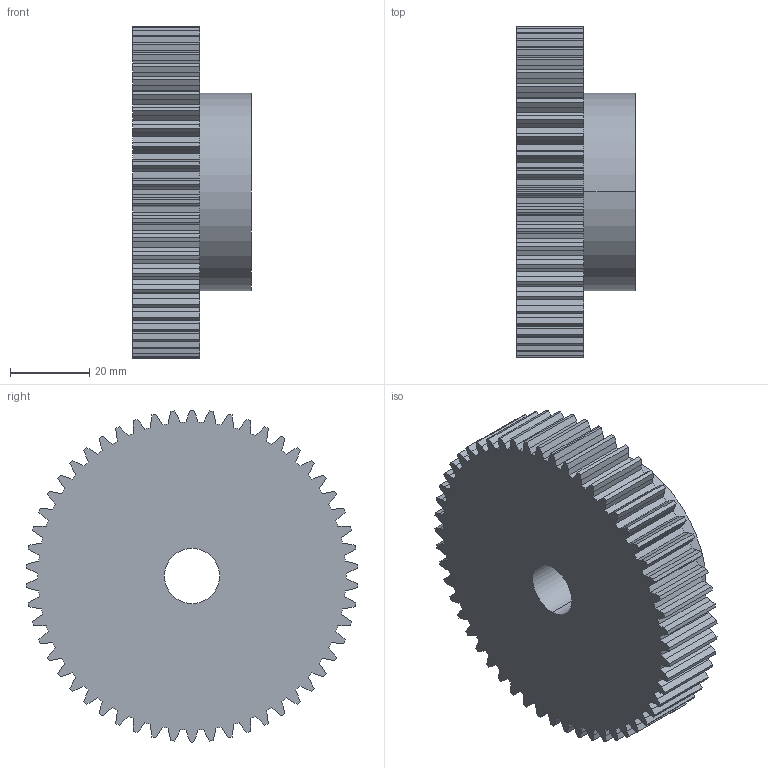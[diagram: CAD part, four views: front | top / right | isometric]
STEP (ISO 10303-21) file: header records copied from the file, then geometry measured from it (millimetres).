
FILE_DESCRIPTION (( 'STEP AP203' ), '1' );
FILE_NAME ('PM 27054.STEP', '2013-09-24T11:34:32', ( '' ), ( '' ), 'SwSTEP 2.0', 'SolidWorks 2010', '' );
FILE_SCHEMA (( 'CONFIG_CONTROL_DESIGN' ));
Length unit declared in the file: millimetre
Products named in the file (1): PM 27054
Bounding box: 30 x 83.91 x 84 mm (x, y, z)
Volume: 107825.1 mm3; surface area: 21447.7 mm2
Topology: 1 solids, 1 shells, 332 faces, 987 edges, 658 vertices
Faces by surface type: plane 219, cylinder 113
Entity records: 11200 total; most frequent: CARTESIAN_POINT 1984, ORIENTED_EDGE 1974, DIRECTION 1877, EDGE_CURVE 987, VECTOR 759, LINE 759, VERTEX_POINT 658, AXIS2_PLACEMENT_3D 559
